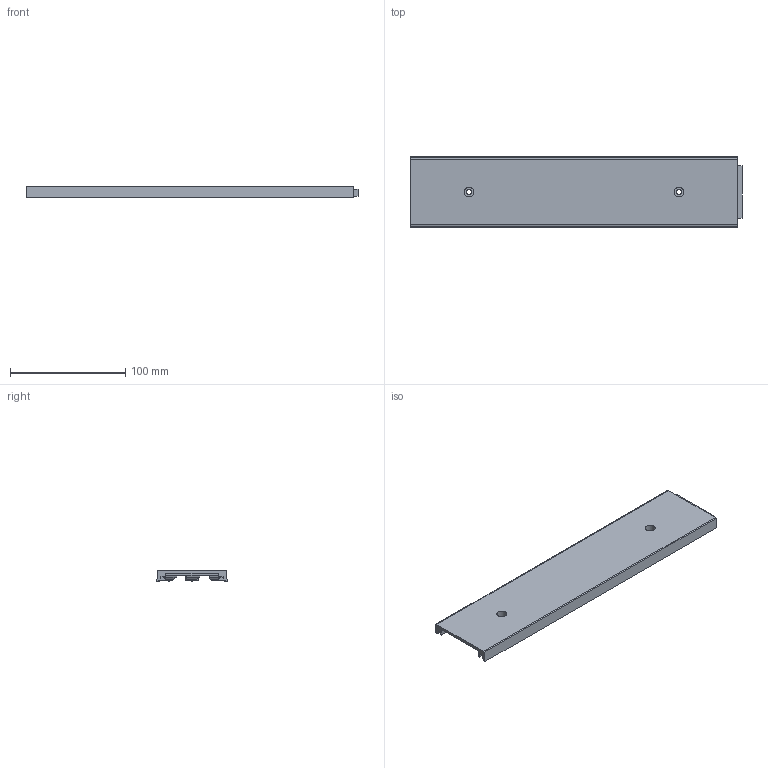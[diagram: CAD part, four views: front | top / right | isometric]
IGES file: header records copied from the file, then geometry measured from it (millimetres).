
Start section: C
Global section: file name: 021-B0L-05.igs; native system: By Siemens PLM Incorporated; preprocessor: XPlus GENERIC/IGES 23.0.61; author: Author; organization: Title; date: 20250623.133907; units: millimetre
Bounding box: 287.8 x 61 x 9.95 mm (x, y, z)
Volume: 73056.3 mm3; surface area: 54212.8 mm2
Topology: 1 solids, 1 shells, 1734 faces, 4674 edges, 3032 vertices
Faces by surface type: bspline 1734
